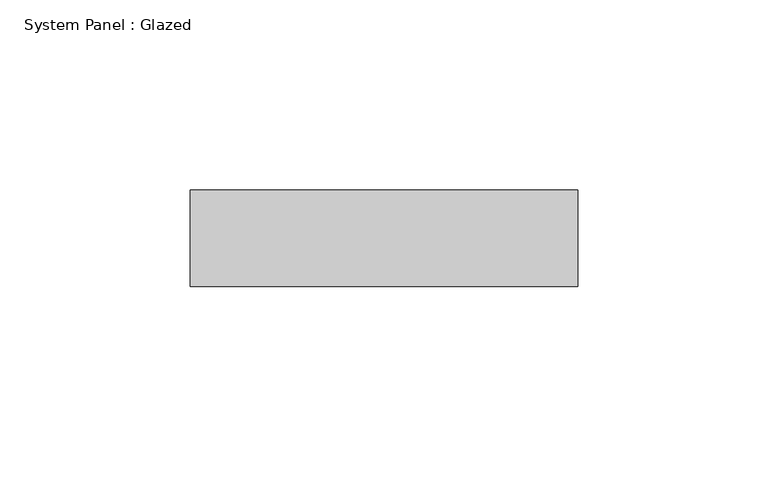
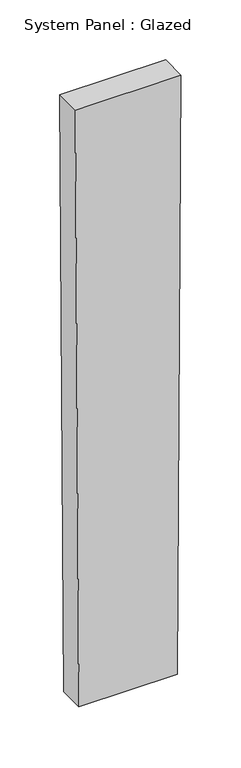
"""IFC4 building model written with IfcOpenShell, lengths in millimetres: plate geometry, System Panel : Glazed."""

from ifc_helpers import new_model, si_unit, frame, origin, place, context, project, spatial, polyline, outline, extrude, source, transform, mapped, element, save


def system_panel_glazed_6a74a591(model_context):
    return source(origin(), model_context, "Body", "SweptSolid", [
        extrude(outline(polyline([(0.0, -47.4246064), (0.0, 47.4246064), (609.5898449, 50.9432642), (609.5898449, -50.9432642), (0.0, -47.4246064)])), frame((0.0, -44.45, 0.0), z_axis=(0.0, 1.0, 0.0), x_axis=(0.0, 0.0, 1.0)), (0.0, 0.0, 1.0), 25.4),
    ])


if __name__ == "__main__":
    model = new_model("IFC4")
    model_context = context("Model", 3, world=origin())
    ifc_project = project(units=[si_unit("LENGTHUNIT", "METRE", prefix="MILLI")], contexts=[model_context])
    site = spatial("IfcSite", under=ifc_project)
    building = spatial("IfcBuilding", under=site)
    placement = place(None, origin())
    system_panel_glazed_shape = system_panel_glazed_6a74a591(model_context)
    element("IfcPlate", 1, ObjectType="System Panel : Glazed", at=placement, inside=building, context=model_context, shape_type="MappedRepresentation", body=[
        mapped(system_panel_glazed_shape, transform((0.0, 0.0, 0.0), x_axis=(1.0, 0.0, 0.0), y_axis=(0.0, 1.0, 0.0), z_axis=(0.0, 0.0, 1.0))),
    ])
    save(model, "model.ifc")
